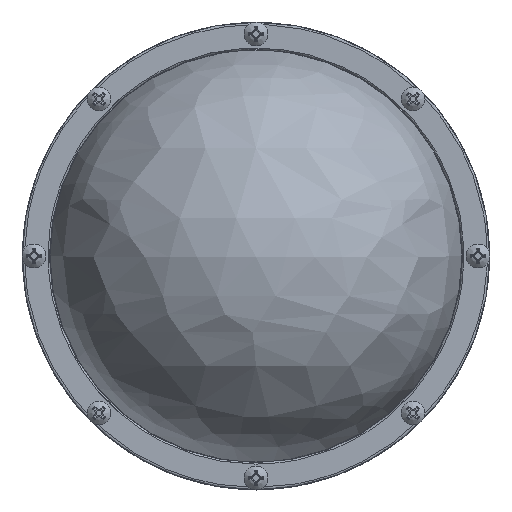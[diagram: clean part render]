
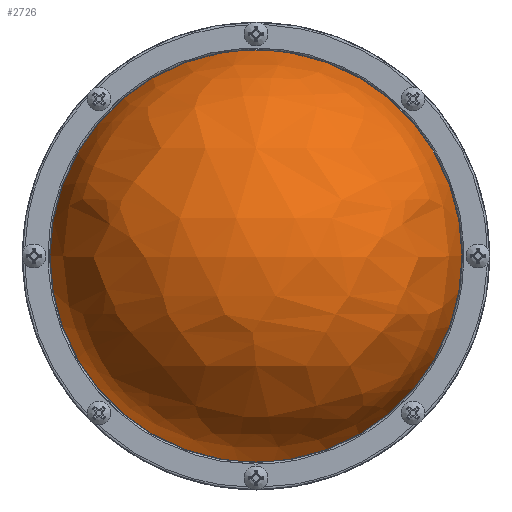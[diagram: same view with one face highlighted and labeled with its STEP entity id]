
A CAD part, top view. The second image highlights one B-rep face of the part: STEP entity #2726.
In plain terms, the highlighted free-form (B-spline) face has degree [3, 3] with [4, 4] control points.
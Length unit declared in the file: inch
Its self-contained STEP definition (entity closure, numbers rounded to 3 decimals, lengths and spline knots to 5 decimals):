
#120 = ORIENTED_EDGE ( 'NONE', *, *, #5959, .T. ) ;
#654 = CARTESIAN_POINT ( 'NONE',  ( 0.17982, 2.77377, 0.38477 ) ) ;
#1131 = DIRECTION ( 'NONE',  ( 0., 0., 1. ) ) ;
#2726 = ADVANCED_FACE ( 'NONE', ( #13493 ), #15696, .T. ) ;
#3814 = CARTESIAN_POINT ( 'NONE',  ( 0.22566, -2.76845, 0.48286 ) ) ;
#5235 = CARTESIAN_POINT ( 'NONE',  ( -0.17949, 2.77377, 0.38492 ) ) ;
#5442 = CARTESIAN_POINT ( 'NONE',  ( 4.85579, 2.3927, 0.61115 ) ) ;
#5550 = CARTESIAN_POINT ( 'NONE',  ( 4.90419, -2.29022, 0.61724 ) ) ;
#5648 = CARTESIAN_POINT ( 'NONE',  ( -0.22525, -2.76845, 0.48306 ) ) ;
#5959 = EDGE_CURVE ( 'NONE', #11868, #11868, #16272, .T. ) ;
#6126 = EDGE_LOOP ( 'NONE', ( #120 ) ) ;
#7170 = CARTESIAN_POINT ( 'NONE',  ( -3.87901, 2.3927, 8.31882 ) ) ;
#7278 = CARTESIAN_POINT ( 'NONE',  ( 3.88612, 2.3927, 8.3155 ) ) ;
#7861 = DIRECTION ( 'NONE',  ( 1., 0., 0. ) ) ;
#9132 = CARTESIAN_POINT ( 'NONE',  ( 0.22468, 2.77377, 0.02828 ) ) ;
#11031 = CARTESIAN_POINT ( 'NONE',  ( 0., 0., 0.39715 ) ) ;
#11868 = VERTEX_POINT ( 'NONE', #18589 ) ;
#12194 = CARTESIAN_POINT ( 'NONE',  ( -0.28193, -2.76845, 0.03573 ) ) ;
#12294 = CARTESIAN_POINT ( 'NONE',  ( 0.28197, -2.76845, 0.03549 ) ) ;
#12391 = CARTESIAN_POINT ( 'NONE',  ( -3.91767, -2.29022, 8.40173 ) ) ;
#13493 = FACE_OUTER_BOUND ( 'NONE', #6126, .T. ) ;
#13856 = AXIS2_PLACEMENT_3D ( 'NONE', #11031, #1131, #7861 ) ;
#13917 = CARTESIAN_POINT ( 'NONE',  ( -4.90366, -2.29022, 0.62143 ) ) ;
#15337 = CARTESIAN_POINT ( 'NONE',  ( 3.92485, -2.29022, 8.39838 ) ) ;
#15696 =( BOUNDED_SURFACE ( )  B_SPLINE_SURFACE ( 3, 3, ( 
 ( #20124, #5235, #654, #9132 ),
 ( #20347, #7170, #7278, #5442 ),
 ( #13917, #12391, #15337, #5550 ),
 ( #12194, #5648, #3814, #12294 ) ),
 .UNSPECIFIED., .F., .F., .F. ) 
 B_SPLINE_SURFACE_WITH_KNOTS ( ( 4, 4 ),
 ( 4, 4 ),
 ( 0., 1. ),
 ( 0., 1. ),
 .UNSPECIFIED. ) 
 GEOMETRIC_REPRESENTATION_ITEM ( )  RATIONAL_B_SPLINE_SURFACE ( (
 ( 1., 0.417, 0.417, 1.),
 ( 0.394, 0.164, 0.164, 0.394),
 ( 0.394, 0.164, 0.164, 0.394),
 ( 1., 0.417, 0.417, 1.) ) ) 
 REPRESENTATION_ITEM ( '' )  SURFACE ( )  );
#16272 = CIRCLE ( 'NONE', #13856, 2.75452 ) ;
#18589 = CARTESIAN_POINT ( 'NONE',  ( 2.75452, 0., 0.39715 ) ) ;
#20124 = CARTESIAN_POINT ( 'NONE',  ( -0.22466, 2.77377, 0.02847 ) ) ;
#20347 = CARTESIAN_POINT ( 'NONE',  ( -4.85527, 2.3927, 0.6153 ) ) ;
